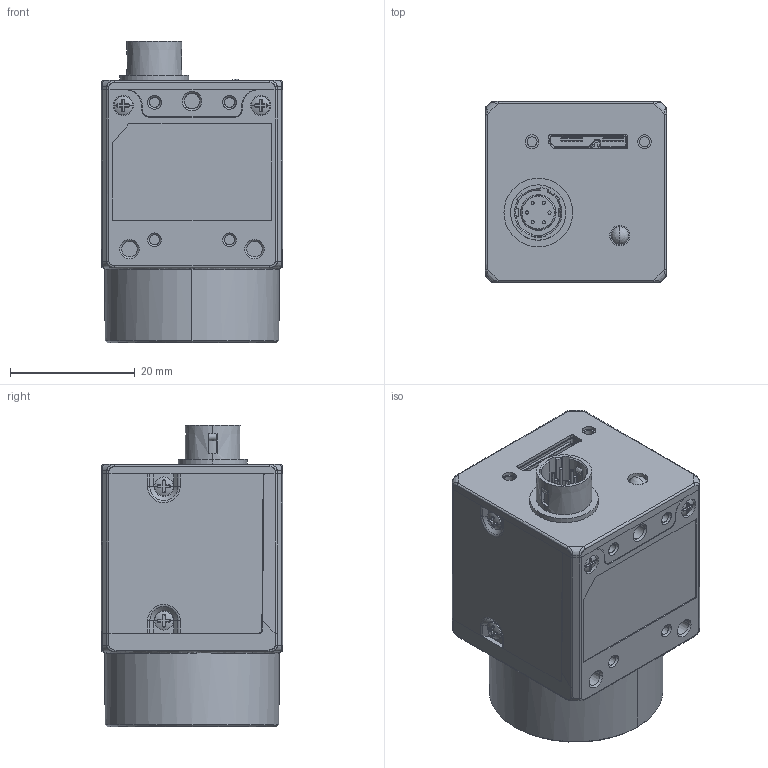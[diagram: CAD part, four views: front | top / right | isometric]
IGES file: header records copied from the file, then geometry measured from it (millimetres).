
Start section:  PTC IGES file: MV-CE050-30UC.igs
Global section: file name: MV-CE050-30UC.igs; native system: Creo Parametric by PTC Inc.; preprocessor: 2017260; author: wangyijun6; organization: Unknown; date: 20200311.141804; units: millimetre
Bounding box: 29.03 x 29 x 48.3 mm (x, y, z)
Volume: 26542.9 mm3; surface area: 10985.2 mm2
Topology: 1 solids, 13 shells, 1415 faces, 3738 edges, 2383 vertices
Faces by surface type: bspline 745, revolution 670
